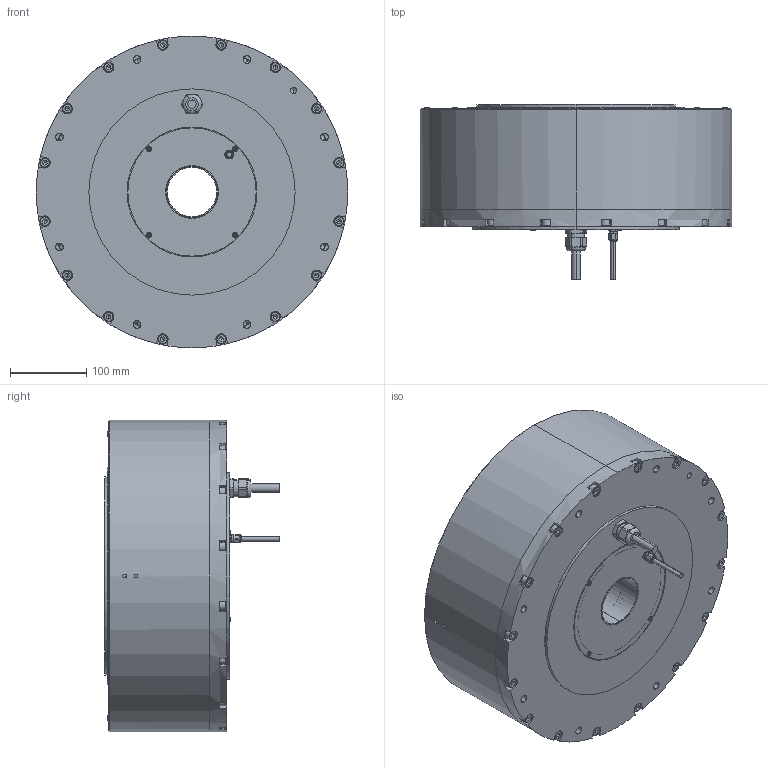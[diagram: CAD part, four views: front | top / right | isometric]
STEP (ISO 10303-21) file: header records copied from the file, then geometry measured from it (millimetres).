
FILE_DESCRIPTION (( 'STEP AP214' ), '1' );
FILE_NAME ('ND400-160-LSP(ABS).step', '2025-03-10T08:08:47', ( '' ), ( '' ), 'SwSTEP 2.0', 'SolidWorks 2024', '' );
FILE_SCHEMA (( 'AUTOMOTIVE_DESIGN' ));
Length unit declared in the file: millimetre
Products named in the file (1): ND400-160-LSP(ABS)
Bounding box: 408 x 229.1 x 408 mm (x, y, z)
Volume: 6474779.8 mm3; surface area: 1119995 mm2
Topology: 48 solids, 48 shells, 1631 faces, 4031 edges, 2456 vertices
Faces by surface type: cylinder 745, plane 414, cone 342, torus 102, sphere 28
Entity records: 50469 total; most frequent: CARTESIAN_POINT 11597, DIRECTION 8355, ORIENTED_EDGE 7686, EDGE_CURVE 3843, AXIS2_PLACEMENT_3D 3364, VERTEX_POINT 2456, EDGE_LOOP 1899, CIRCLE 1732
